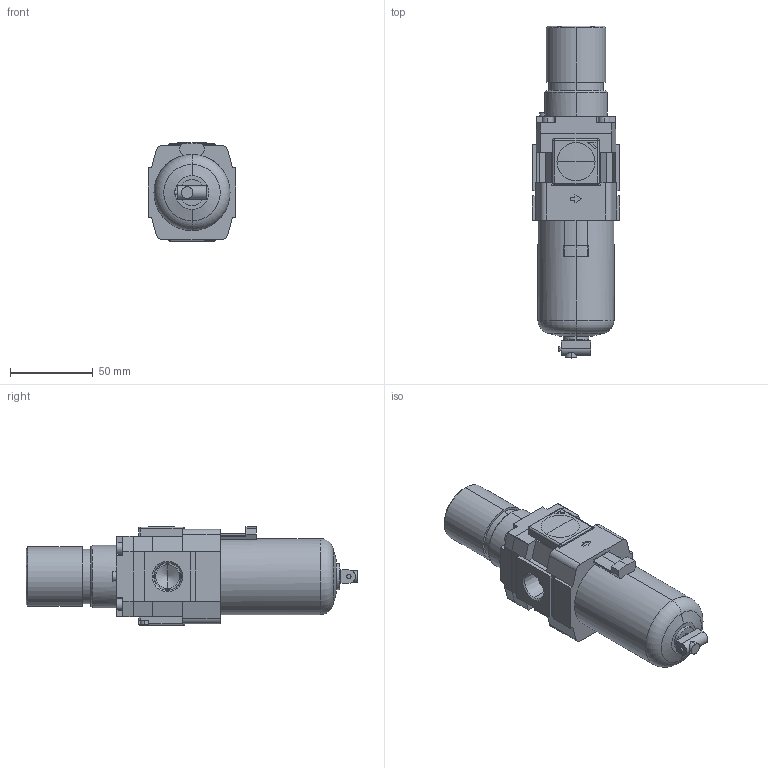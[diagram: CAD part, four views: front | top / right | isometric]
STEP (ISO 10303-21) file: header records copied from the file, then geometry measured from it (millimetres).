
FILE_DESCRIPTION (( 'STEP AP214' ), '1' );
FILE_NAME ('AW30-F03E-B.step.step', '2022-09-29T11:01:03', ( '' ), ( '' ), 'SwSTEP 2.0', 'SolidWorks 2022', '' );
FILE_SCHEMA (( 'AUTOMOTIVE_DESIGN' ));
Length unit declared in the file: millimetre
Products named in the file (7): AW30-F03E-B.step_AW_Bowl_30; AW30-F03E-B.step_AW3020A Gauge_20-E; AW30-F03E-B.step_AW3020A Plug_01; AW30-F03E-B.step; AW30-F03E-B.step_AW3020A Gauge_30; AW30-F03E-B.step_AW_Drain_30; AW30-F03E-B.step_AW3020A Body_30
Assembly tree (6 placements, depth 2):
  AW30-F03E-B.step
    AW30-F03E-B.step_AW3020A Body_30
    AW30-F03E-B.step_AW_Bowl_30
    AW30-F03E-B.step_AW3020A Gauge_20-E
    AW30-F03E-B.step_AW3020A Gauge_30
    AW30-F03E-B.step_AW3020A Plug_01
    AW30-F03E-B.step_AW_Drain_30
Bounding box: 53 x 200.8 x 59.7 mm (x, y, z)
Volume: 325719.3 mm3; surface area: 45949.9 mm2
Topology: 6 solids, 6 shells, 270 faces, 663 edges, 415 vertices
Faces by surface type: plane 157, cylinder 65, cone 38, sphere 8, torus 2
Entity records: 8859 total; most frequent: CARTESIAN_POINT 1429, DIRECTION 1393, ORIENTED_EDGE 1306, EDGE_CURVE 653, AXIS2_PLACEMENT_3D 467, LINE 459, VECTOR 459, VERTEX_POINT 415
